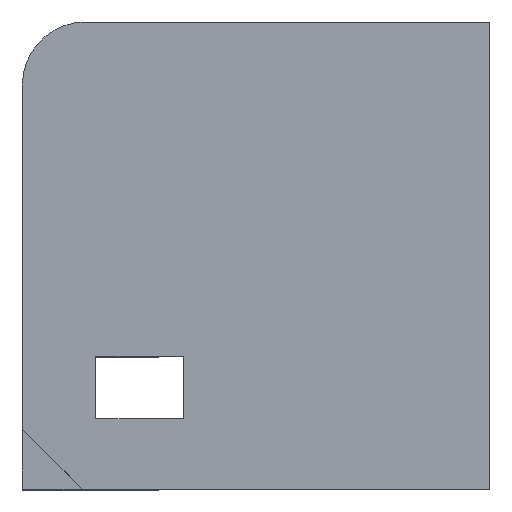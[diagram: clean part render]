
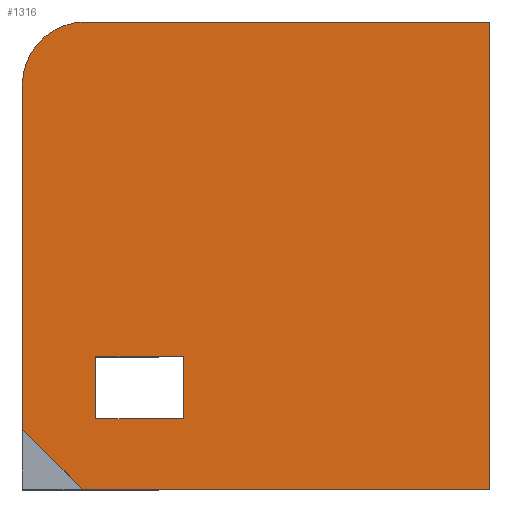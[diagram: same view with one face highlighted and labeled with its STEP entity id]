
A CAD part, top view. The second image highlights one B-rep face of the part: STEP entity #1316.
In plain terms, the highlighted planar face has unit normal (0, 0, 1).
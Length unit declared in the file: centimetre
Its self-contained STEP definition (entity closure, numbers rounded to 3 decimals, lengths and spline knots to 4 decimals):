
#68 = VERTEX_POINT ( 'NONE', #1066 ) ;
#74 = DIRECTION ( 'NONE',  ( -1., 0., 0. ) ) ;
#84 = LINE ( 'NONE', #562, #556 ) ;
#89 = VECTOR ( 'NONE', #205, 100. ) ;
#102 = VERTEX_POINT ( 'NONE', #1279 ) ;
#174 = EDGE_CURVE ( 'NONE', #283, #102, #633, .T. ) ;
#205 = DIRECTION ( 'NONE',  ( 0., 1., 0. ) ) ;
#211 = LINE ( 'NONE', #1348, #1207 ) ;
#212 = CARTESIAN_POINT ( 'NONE',  ( 0., 0., 1000. ) ) ;
#234 = LINE ( 'NONE', #212, #630 ) ;
#252 = PLANE ( 'NONE',  #584 ) ;
#261 = CARTESIAN_POINT ( 'NONE',  ( 0., 128.1508, 1000. ) ) ;
#283 = VERTEX_POINT ( 'NONE', #1131 ) ;
#289 = VERTEX_POINT ( 'NONE', #1228 ) ;
#294 = VECTOR ( 'NONE', #74, 100. ) ;
#317 = CARTESIAN_POINT ( 'NONE',  ( 157.0202, 284.5401, 1000. ) ) ;
#328 = DIRECTION ( 'NONE',  ( 0., -1., 0. ) ) ;
#352 = CARTESIAN_POINT ( 'NONE',  ( 345.1663, 150.2368, 1000. ) ) ;
#358 = EDGE_CURVE ( 'NONE', #1225, #1326, #1220, .T. ) ;
#383 = EDGE_LOOP ( 'NONE', ( #1276, #644, #1333, #868 ) ) ;
#396 = EDGE_CURVE ( 'NONE', #68, #1326, #501, .T. ) ;
#442 = VERTEX_POINT ( 'NONE', #599 ) ;
#454 = ORIENTED_EDGE ( 'NONE', *, *, #396, .F. ) ;
#482 = DIRECTION ( 'NONE',  ( 0., 0., 1. ) ) ;
#490 = VECTOR ( 'NONE', #620, 100. ) ;
#495 = CARTESIAN_POINT ( 'NONE',  ( 134.858, 865.142, 1000. ) ) ;
#500 = EDGE_CURVE ( 'NONE', #289, #1225, #1236, .T. ) ;
#501 = LINE ( 'NONE', #261, #535 ) ;
#513 = VECTOR ( 'NONE', #579, 100. ) ;
#535 = VECTOR ( 'NONE', #1039, 100. ) ;
#553 = DIRECTION ( 'NONE',  ( 1., 0., 0. ) ) ;
#556 = VECTOR ( 'NONE', #553, 100. ) ;
#559 = VERTEX_POINT ( 'NONE', #1063 ) ;
#562 = CARTESIAN_POINT ( 'NONE',  ( 157.0202, 284.5401, 1000. ) ) ;
#579 = DIRECTION ( 'NONE',  ( 0., -1., 0. ) ) ;
#584 = AXIS2_PLACEMENT_3D ( 'NONE', #1028, #482, #1375 ) ;
#585 = FACE_BOUND ( 'NONE', #383, .T. ) ;
#599 = CARTESIAN_POINT ( 'NONE',  ( 1000., 1000., 1000. ) ) ;
#615 = CARTESIAN_POINT ( 'NONE',  ( 345.1663, 284.5401, 1000. ) ) ;
#620 = DIRECTION ( 'NONE',  ( -1., 0., 0. ) ) ;
#626 = VECTOR ( 'NONE', #328, 100. ) ;
#630 = VECTOR ( 'NONE', #1344, 100. ) ;
#633 = LINE ( 'NONE', #1385, #490 ) ;
#638 = LINE ( 'NONE', #1383, #294 ) ;
#644 = ORIENTED_EDGE ( 'NONE', *, *, #1170, .T. ) ;
#657 = AXIS2_PLACEMENT_3D ( 'NONE', #495, #941, #1143 ) ;
#689 = ORIENTED_EDGE ( 'NONE', *, *, #850, .T. ) ;
#693 = LINE ( 'NONE', #352, #513 ) ;
#710 = CARTESIAN_POINT ( 'NONE',  ( 0., 128.1508, 1000. ) ) ;
#718 = EDGE_LOOP ( 'NONE', ( #454, #1449, #689, #978, #1244, #1319 ) ) ;
#745 = EDGE_CURVE ( 'NONE', #68, #559, #234, .T. ) ;
#780 = LINE ( 'NONE', #1219, #89 ) ;
#801 = CARTESIAN_POINT ( 'NONE',  ( 0., 865.142, 1000. ) ) ;
#813 = EDGE_CURVE ( 'NONE', #1444, #283, #693, .T. ) ;
#831 = FACE_OUTER_BOUND ( 'NONE', #718, .T. ) ;
#850 = EDGE_CURVE ( 'NONE', #559, #442, #780, .T. ) ;
#868 = ORIENTED_EDGE ( 'NONE', *, *, #174, .T. ) ;
#941 = DIRECTION ( 'NONE',  ( 0., 0., 1. ) ) ;
#978 = ORIENTED_EDGE ( 'NONE', *, *, #1026, .T. ) ;
#1011 = CARTESIAN_POINT ( 'NONE',  ( 0., 1000., 1000. ) ) ;
#1026 = EDGE_CURVE ( 'NONE', #442, #289, #638, .T. ) ;
#1028 = CARTESIAN_POINT ( 'NONE',  ( 0., 0., 1000. ) ) ;
#1039 = DIRECTION ( 'NONE',  ( -0.707, 0.707, 0. ) ) ;
#1063 = CARTESIAN_POINT ( 'NONE',  ( 1000., 0., 1000. ) ) ;
#1066 = CARTESIAN_POINT ( 'NONE',  ( 128.1508, 0., 1000. ) ) ;
#1131 = CARTESIAN_POINT ( 'NONE',  ( 345.1663, 150.2368, 1000. ) ) ;
#1143 = DIRECTION ( 'NONE',  ( 1., 0., 0. ) ) ;
#1170 = EDGE_CURVE ( 'NONE', #1190, #1444, #84, .T. ) ;
#1190 = VERTEX_POINT ( 'NONE', #317 ) ;
#1207 = VECTOR ( 'NONE', #1438, 100. ) ;
#1219 = CARTESIAN_POINT ( 'NONE',  ( 1000., 1000., 1000. ) ) ;
#1220 = LINE ( 'NONE', #1011, #626 ) ;
#1225 = VERTEX_POINT ( 'NONE', #801 ) ;
#1228 = CARTESIAN_POINT ( 'NONE',  ( 134.858, 1000., 1000. ) ) ;
#1236 = CIRCLE ( 'NONE', #657, 134.858 ) ;
#1239 = EDGE_CURVE ( 'NONE', #102, #1190, #211, .T. ) ;
#1244 = ORIENTED_EDGE ( 'NONE', *, *, #500, .T. ) ;
#1276 = ORIENTED_EDGE ( 'NONE', *, *, #1239, .T. ) ;
#1279 = CARTESIAN_POINT ( 'NONE',  ( 157.0202, 150.2368, 1000. ) ) ;
#1316 = ADVANCED_FACE ( 'NONE', ( #831, #585 ), #252, .T. ) ;
#1319 = ORIENTED_EDGE ( 'NONE', *, *, #358, .T. ) ;
#1326 = VERTEX_POINT ( 'NONE', #710 ) ;
#1333 = ORIENTED_EDGE ( 'NONE', *, *, #813, .T. ) ;
#1344 = DIRECTION ( 'NONE',  ( 1., 0., 0. ) ) ;
#1348 = CARTESIAN_POINT ( 'NONE',  ( 157.0202, 150.2368, 1000. ) ) ;
#1375 = DIRECTION ( 'NONE',  ( 1., 0., 0. ) ) ;
#1383 = CARTESIAN_POINT ( 'NONE',  ( 0., 1000., 1000. ) ) ;
#1385 = CARTESIAN_POINT ( 'NONE',  ( 157.0202, 150.2368, 1000. ) ) ;
#1438 = DIRECTION ( 'NONE',  ( 0., 1., 0. ) ) ;
#1444 = VERTEX_POINT ( 'NONE', #615 ) ;
#1449 = ORIENTED_EDGE ( 'NONE', *, *, #745, .T. ) ;
